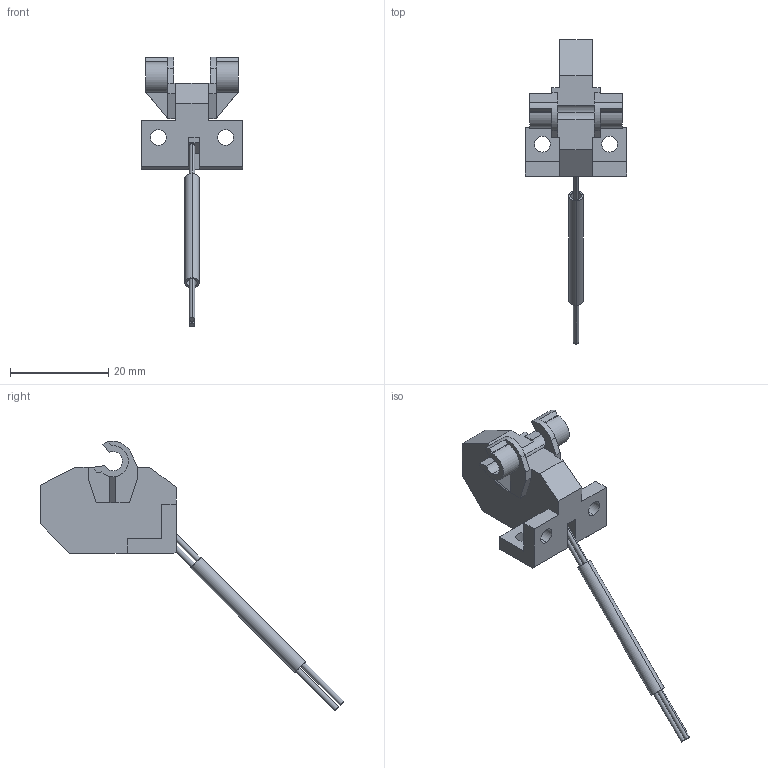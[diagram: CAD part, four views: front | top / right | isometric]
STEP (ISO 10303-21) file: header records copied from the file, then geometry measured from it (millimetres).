
FILE_DESCRIPTION (( 'STEP AP203' ), '1' );
FILE_NAME ('fd-bef40.STEP', '2020-09-24T01:34:42', ( '' ), ( '' ), 'SwSTEP 2.0', 'SolidWorks 2017', '' );
FILE_SCHEMA (( 'CONFIG_CONTROL_DESIGN' ));
Length unit declared in the file: millimetre
Products named in the file (1): fd-bef40
Bounding box: 20.7 x 61.79 x 54.79 mm (x, y, z)
Volume: 4129.2 mm3; surface area: 3301.5 mm2
Topology: 1 solids, 1 shells, 99 faces, 285 edges, 188 vertices
Faces by surface type: plane 69, cylinder 30
Entity records: 3346 total; most frequent: CARTESIAN_POINT 585, ORIENTED_EDGE 570, DIRECTION 555, EDGE_CURVE 285, VECTOR 207, LINE 207, VERTEX_POINT 188, AXIS2_PLACEMENT_3D 174
